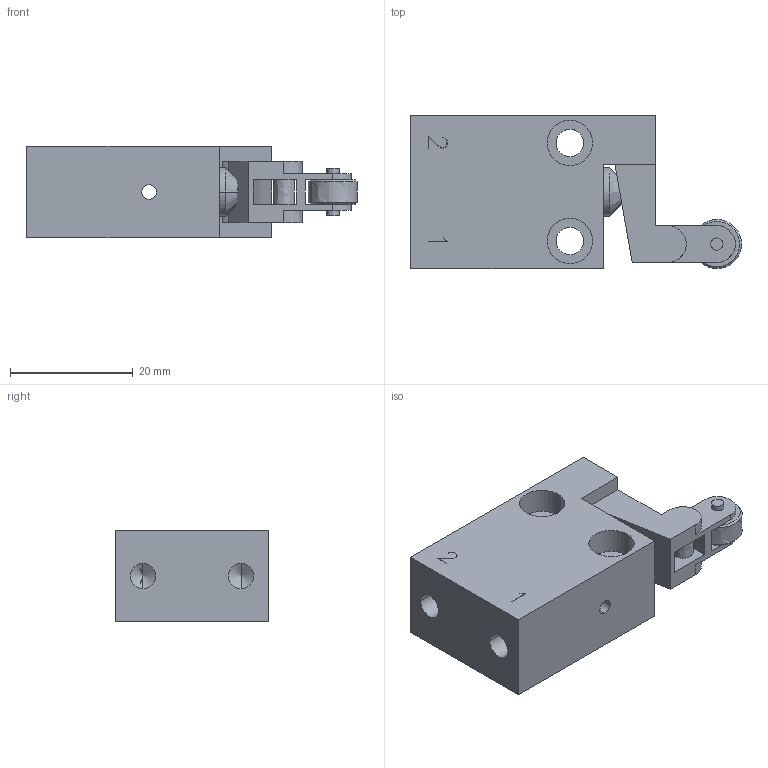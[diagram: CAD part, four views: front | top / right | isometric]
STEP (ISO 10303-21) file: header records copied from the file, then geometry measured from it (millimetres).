
FILE_DESCRIPTION (( 'STEP AP203' ), '1' );
FILE_NAME ('EL-25-310-Airtec.step', '2009-02-18T08:50:32', ( 'Gustaf Hederström' ), ( 'Cevican AB' ), 'SwSTEP 2.0', 'SolidWorks 2002308', '' );
FILE_SCHEMA (( 'CONFIG_CONTROL_DESIGN' ));
Length unit declared in the file: millimetre
Products named in the file (1): EL-25-310-Airtec
Bounding box: 54 x 25 x 15 mm (x, y, z)
Volume: 12566.6 mm3; surface area: 6284.1 mm2
Topology: 1 solids, 1 shells, 164 faces, 445 edges, 292 vertices
Faces by surface type: plane 116, bspline 25, cylinder 19, cone 4
Entity records: 5485 total; most frequent: CARTESIAN_POINT 1281, ORIENTED_EDGE 882, DIRECTION 805, EDGE_CURVE 441, LINE 353, VECTOR 353, VERTEX_POINT 292, AXIS2_PLACEMENT_3D 226
